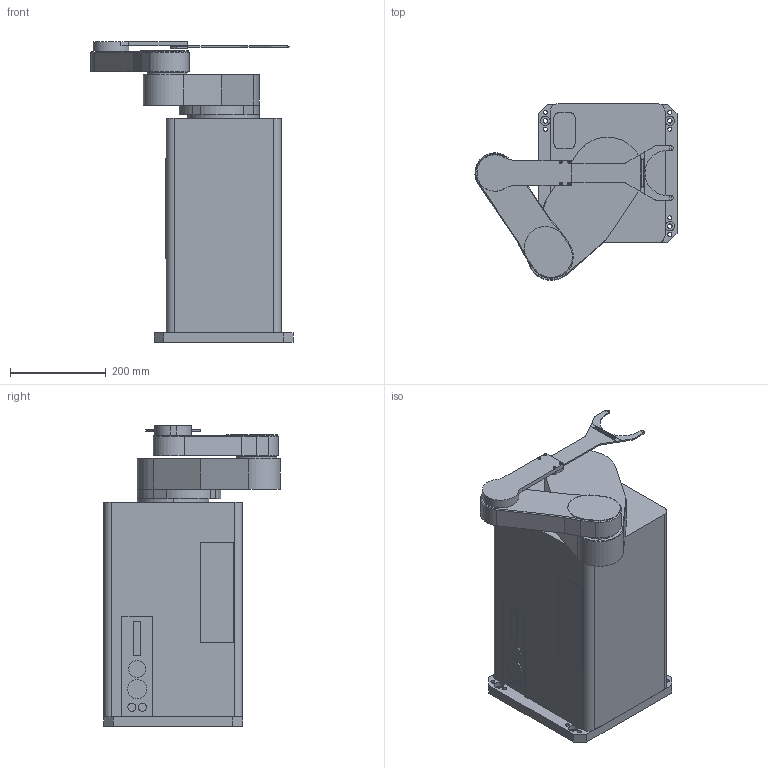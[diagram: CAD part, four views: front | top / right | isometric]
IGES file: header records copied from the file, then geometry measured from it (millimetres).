
Global section: file name: No Iges File Name specified; native system: Autodesk Inventor 2011; preprocessor: AutoDesk Inventor Iges Exporter R2011; author: a-yamamoto; date: 20110922.144804; units: millimetre
Bounding box: 421.9 x 368.95 x 628 mm (x, y, z)
Volume: 37213182.4 mm3; surface area: 1264941.4 mm2
Topology: 7 solids, 7 shells, 283 faces, 714 edges, 465 vertices
Faces by surface type: plane 141, bspline 62, cylinder 38, revolution 37, cone 5
